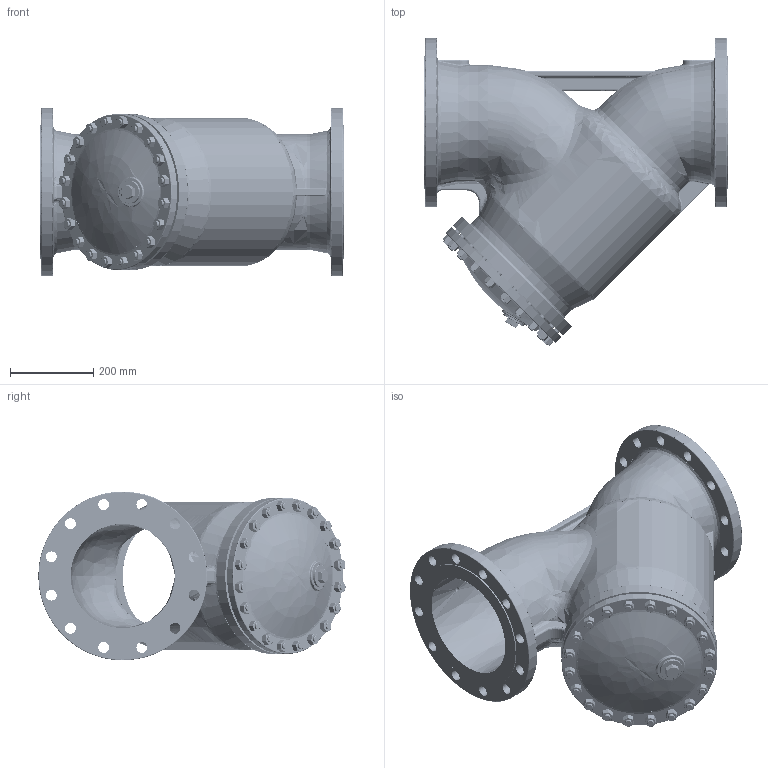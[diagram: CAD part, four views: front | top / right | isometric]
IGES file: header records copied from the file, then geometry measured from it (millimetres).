
Start section: SolidWorks IGES file using analytic representation for surfaces
Global section: file name: D:\katalog z³o¿eñ\00_Gotowe\821\RYSUNKI DXF\Z£O¯ENIA\Part\821_DN250_PN16.IGS; native system: SolidWorks 2010; preprocessor: SolidWorks 2010; author: alisowsk; date: 100108.130707; units: millimetre
Bounding box: 730 x 737.38 x 405 mm (x, y, z)
Surface area: 2681690.9 mm2 (no closed solid volume)
Topology: 0 solids, 0 shells, 1711 faces, 25006 edges, 24998 vertices
Faces by surface type: revolution 966, bspline 745
